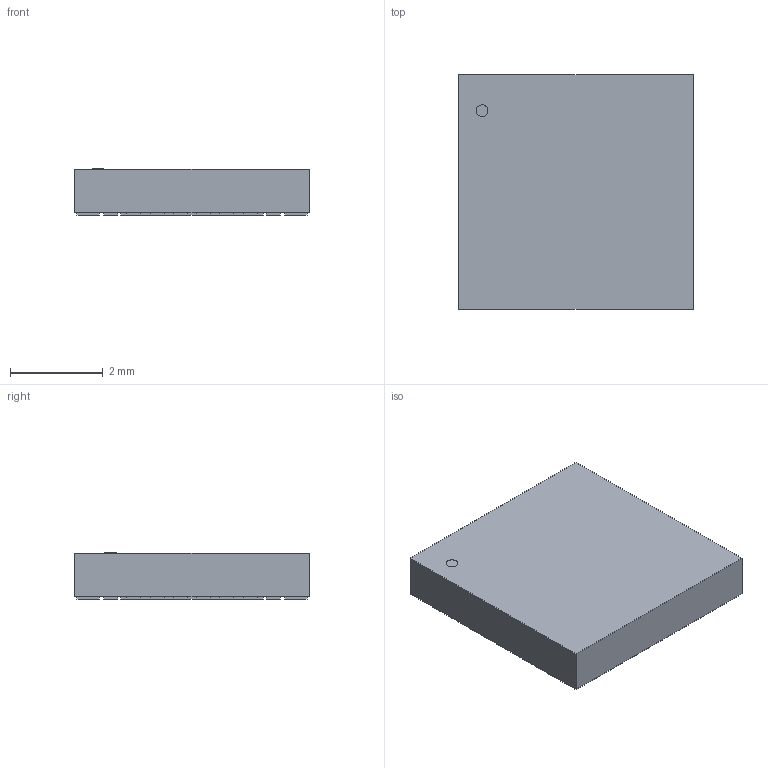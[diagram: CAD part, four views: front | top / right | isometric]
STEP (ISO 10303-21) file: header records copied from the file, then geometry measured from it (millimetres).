
FILE_DESCRIPTION(('STEP AP214'),'1');
FILE_NAME('PE42540F-Z_PSE','2024-04-18T04:44:43',(''),(''),'','','');
FILE_SCHEMA(('AUTOMOTIVE_DESIGN'));
Length unit declared in the file: millimetre
Products named in the file (1): product
Bounding box: 5.05 x 5.05 x 0.99 mm (x, y, z)
Volume: 24.7 mm3; surface area: 101.7 mm2
Topology: 35 solids, 35 shells, 207 faces, 411 edges, 274 vertices
Faces by surface type: plane 206, cylinder 1
Full cylindrical faces by diameter (mm): 0.253 x1
Entity records: 5125 total; most frequent: DIRECTION 830, ORIENTED_EDGE 820, CARTESIAN_POINT 485, EDGE_CURVE 410, LINE 408, VECTOR 408, VERTEX_POINT 274, AXIS2_PLACEMENT_3D 211
